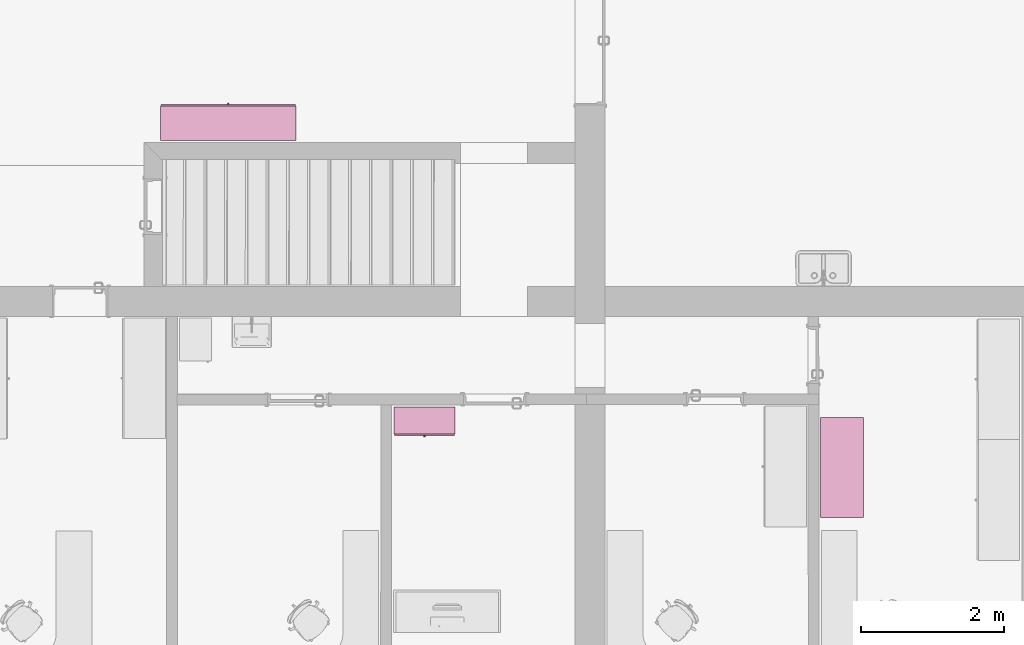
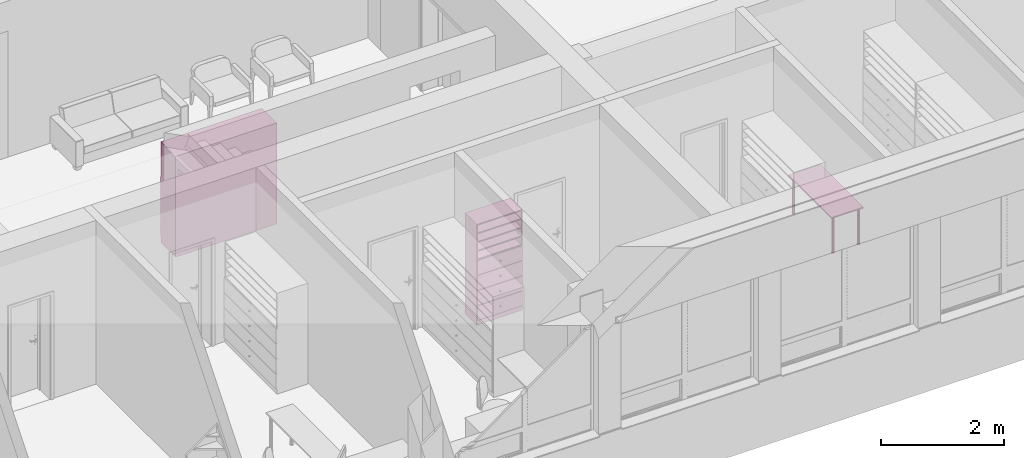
# One storey, part 174 of 194: 3 furnishings.
"""IFC2X3 building model written with IfcOpenShell, lengths in millimetres."""

from ifc_helpers import new_model, entity, si_unit, converted_unit, derived_unit, money_unit, direction, frame, origin_with_axes, place, context, subcontext, project, spatial, faceted_brep, type_object, element, save


model = new_model("IFC2X3")

# Units and contexts
model_context = context("Model", 3, precision=1e-05, world=origin_with_axes(), true_north=direction((0.0, 1.0)))
body_context = subcontext(model_context, "Body", "Model", "MODEL_VIEW")
ifc_project = project(units=[si_unit("LENGTHUNIT", "METRE", prefix="MILLI"), si_unit("AREAUNIT", "SQUARE_METRE"), si_unit("VOLUMEUNIT", "CUBIC_METRE"), converted_unit("PLANEANGLEUNIT", "DEGREE", entity("IfcPlaneAngleMeasure", 0.0174532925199), si_unit("PLANEANGLEUNIT", "RADIAN"), dimensions=[0, 0, 0, 0, 0, 0, 0]), si_unit("SOLIDANGLEUNIT", "STERADIAN"), money_unit("EUR"), converted_unit("TIMEUNIT", "Year", entity("IfcTimeMeasure", 31556926.0), si_unit("TIMEUNIT", "SECOND"), dimensions=[0, 0, 1, 0, 0, 0, 0]), si_unit("MASSUNIT", "GRAM", prefix="KILO"), si_unit("THERMODYNAMICTEMPERATUREUNIT", "DEGREE_CELSIUS"), si_unit("LUMINOUSINTENSITYUNIT", "LUMEN"), si_unit("ENERGYUNIT", "JOULE", prefix="MEGA"), derived_unit("THERMALCONDUCTANCEUNIT", [(si_unit("POWERUNIT", "WATT"), 1), (si_unit("LENGTHUNIT", "METRE"), -1), (si_unit("THERMODYNAMICTEMPERATUREUNIT", "KELVIN"), -1)]), derived_unit("SPECIFICHEATCAPACITYUNIT", [(si_unit("ENERGYUNIT", "JOULE"), 1), (si_unit("MASSUNIT", "GRAM", prefix="KILO"), -1), (si_unit("THERMODYNAMICTEMPERATUREUNIT", "KELVIN"), -1)]), derived_unit("MASSDENSITYUNIT", [(si_unit("MASSUNIT", "GRAM", prefix="KILO"), 1), (si_unit("VOLUMEUNIT", "CUBIC_METRE"), -1)])], contexts=[model_context])

# Site, building, storey
site_placement = place(None, origin_with_axes())
site = spatial("IfcSite", under=ifc_project, at=site_placement, Name="Site", CompositionType="ELEMENT")
building_placement = place(site_placement, origin_with_axes())
building = spatial("IfcBuilding", under=site, at=building_placement, Name="Building", CompositionType="ELEMENT")
storey_placement = place(building_placement, frame((0.0, 0.0, 3000.0), z_axis=(0.0, 0.0, 1.0), x_axis=(1.0, 0.0, 0.0)))
storey = spatial("IfcBuildingStorey", under=building, at=storey_placement, Name="2 KORRUS", CompositionType="ELEMENT", Elevation=3000.0)

# Furnishings
furnishing_element_type_1 = type_object("IfcFurnishingElementType", Name="Model Element 133")
furnishing_1_placement = place(storey_placement, frame((85194.669742, 38913.6964991, 0.0), z_axis=(0.0, 0.0, 1.0), x_axis=(1.0, 0.0, 0.0)))
element("IfcFurnishingElement", 1, at=furnishing_1_placement, inside=storey, type_object=furnishing_element_type_1, Name="FU - 001", context=body_context, shape_type="Brep", body=[
    faceted_brep([(855.807816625, 19.0, 0.0), (0.0, 19.0, 0.0), (0.0, 400.0, 0.0), (855.807816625, 400.0, 0.0), (855.807816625, 19.0, 100.0), (0.0, 19.0, 100.0), (0.0, 400.0, 100.0), (855.807816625, 400.0, 100.0)], [[[0, 1, 2, 3]], [[1, 0, 4, 5]], [[2, 1, 5, 6]], [[3, 2, 6, 7]], [[0, 3, 7, 4]], [[5, 4, 7, 6]]]),
    faceted_brep([(19.0, 400.0, 119.0), (19.0, 381.0, 119.0), (19.0, 381.0, 1981.0), (19.0, 400.0, 1981.0), (836.807816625, 400.0, 119.0), (836.807816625, 381.0, 119.0), (836.807816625, 381.0, 1981.0), (836.807816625, 400.0, 1981.0)], [[[0, 1, 2, 3]], [[0, 4, 5, 1]], [[1, 5, 6, 2]], [[3, 2, 6, 7]], [[4, 0, 3, 7]], [[5, 4, 7, 6]]]),
    faceted_brep([(855.807816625, 19.0, 100.0), (836.807816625, 19.0, 100.0), (836.807816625, 400.0, 100.0), (855.807816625, 400.0, 100.0), (855.807816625, 19.0, 2000.0), (836.807816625, 19.0, 2000.0), (836.807816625, 400.0, 2000.0), (855.807816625, 400.0, 2000.0)], [[[0, 1, 2, 3]], [[1, 0, 4, 5]], [[2, 1, 5, 6]], [[3, 2, 6, 7]], [[0, 3, 7, 4]], [[5, 4, 7, 6]]]),
    faceted_brep([(19.0, 19.0, 100.0), (0.0, 19.0, 100.0), (0.0, 400.0, 100.0), (19.0, 400.0, 100.0), (19.0, 19.0, 2000.0), (0.0, 19.0, 2000.0), (0.0, 400.0, 2000.0), (19.0, 400.0, 2000.0)], [[[0, 1, 2, 3]], [[1, 0, 4, 5]], [[2, 1, 5, 6]], [[3, 2, 6, 7]], [[0, 3, 7, 4]], [[5, 4, 7, 6]]]),
    faceted_brep([(836.807816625, 19.0, 100.0), (19.0, 19.0, 100.0), (19.0, 400.0, 100.0), (836.807816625, 400.0, 100.0), (836.807816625, 19.0, 119.0), (19.0, 19.0, 119.0), (19.0, 400.0, 119.0), (836.807816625, 400.0, 119.0)], [[[0, 1, 2, 3]], [[1, 0, 4, 5]], [[2, 1, 5, 6]], [[3, 2, 6, 7]], [[0, 3, 7, 4]], [[5, 4, 7, 6]]]),
    faceted_brep([(836.807816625, 19.0, 1981.0), (19.0, 19.0, 1981.0), (19.0, 400.0, 1981.0), (836.807816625, 400.0, 1981.0), (836.807816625, 19.0, 2000.0), (19.0, 19.0, 2000.0), (19.0, 400.0, 2000.0), (836.807816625, 400.0, 2000.0)], [[[0, 1, 2, 3]], [[1, 0, 4, 5]], [[2, 1, 5, 6]], [[3, 2, 6, 7]], [[0, 3, 7, 4]], [[5, 4, 7, 6]]]),
    faceted_brep([(5.0, 19.0, 105.0), (850.807816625, 19.0, 105.0), (850.807816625, 0.0, 105.0), (5.0, 0.0, 105.0), (5.0, 19.0, 395.0), (850.807816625, 19.0, 395.0), (850.807816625, 0.0, 395.0), (5.0, 0.0, 395.0)], [[[0, 1, 2, 3]], [[0, 4, 5, 1]], [[1, 5, 6, 2]], [[3, 2, 6, 7]], [[4, 0, 3, 7]], [[5, 4, 7, 6]]]),
    faceted_brep([(438.296213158, 0.0, 244.0), (433.903908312, 0.0, 239.607695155), (427.903908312, 0.0, 238.0), (421.903908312, 0.0, 239.607695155), (417.511603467, 0.0, 244.0), (415.903908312, 0.0, 250.0), (417.511603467, 0.0, 256.0), (421.903908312, 0.0, 260.392304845), (427.903908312, 0.0, 262.0), (433.903908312, 0.0, 260.392304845), (438.296213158, 0.0, 256.0), (439.903908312, 0.0, 250.0), (438.296213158, -25.0, 244.0), (433.903908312, -25.0, 239.607695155), (427.903908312, -25.0, 238.0), (421.903908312, -25.0, 239.607695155), (417.511603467, -25.0, 244.0), (415.903908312, -25.0, 250.0), (417.511603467, -25.0, 256.0), (421.903908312, -25.0, 260.392304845), (427.903908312, -25.0, 262.0), (433.903908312, -25.0, 260.392304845), (438.296213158, -25.0, 256.0), (439.903908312, -25.0, 250.0)], [[[0, 1, 2, 3, 4, 5, 6, 7, 8, 9, 10, 11]], [[1, 0, 12, 13]], [[2, 1, 13, 14]], [[3, 2, 14, 15]], [[4, 3, 15, 16]], [[5, 4, 16, 17]], [[6, 5, 17, 18]], [[7, 6, 18, 19]], [[8, 7, 19, 20]], [[9, 8, 20, 21]], [[10, 9, 21, 22]], [[11, 10, 22, 23]], [[0, 11, 23, 12]], [[12, 23, 22, 21, 20, 19, 18, 17, 16, 15, 14, 13]]]),
    faceted_brep([(5.0, 19.0, 405.0), (850.807816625, 19.0, 405.0), (850.807816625, 0.0, 405.0), (5.0, 0.0, 405.0), (5.0, 19.0, 695.0), (850.807816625, 19.0, 695.0), (850.807816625, 0.0, 695.0), (5.0, 0.0, 695.0)], [[[0, 1, 2, 3]], [[0, 4, 5, 1]], [[1, 5, 6, 2]], [[3, 2, 6, 7]], [[4, 0, 3, 7]], [[5, 4, 7, 6]]]),
    faceted_brep([(438.296213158, 0.0, 544.0), (433.903908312, 0.0, 539.607695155), (427.903908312, 0.0, 538.0), (421.903908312, 0.0, 539.607695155), (417.511603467, 0.0, 544.0), (415.903908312, 0.0, 550.0), (417.511603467, 0.0, 556.0), (421.903908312, 0.0, 560.392304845), (427.903908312, 0.0, 562.0), (433.903908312, 0.0, 560.392304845), (438.296213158, 0.0, 556.0), (439.903908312, 0.0, 550.0), (438.296213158, -25.0, 544.0), (433.903908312, -25.0, 539.607695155), (427.903908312, -25.0, 538.0), (421.903908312, -25.0, 539.607695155), (417.511603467, -25.0, 544.0), (415.903908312, -25.0, 550.0), (417.511603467, -25.0, 556.0), (421.903908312, -25.0, 560.392304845), (427.903908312, -25.0, 562.0), (433.903908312, -25.0, 560.392304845), (438.296213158, -25.0, 556.0), (439.903908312, -25.0, 550.0)], [[[0, 1, 2, 3, 4, 5, 6, 7, 8, 9, 10, 11]], [[1, 0, 12, 13]], [[2, 1, 13, 14]], [[3, 2, 14, 15]], [[4, 3, 15, 16]], [[5, 4, 16, 17]], [[6, 5, 17, 18]], [[7, 6, 18, 19]], [[8, 7, 19, 20]], [[9, 8, 20, 21]], [[10, 9, 21, 22]], [[11, 10, 22, 23]], [[0, 11, 23, 12]], [[12, 23, 22, 21, 20, 19, 18, 17, 16, 15, 14, 13]]]),
    faceted_brep([(5.0, 19.0, 705.0), (850.807816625, 19.0, 705.0), (850.807816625, 0.0, 705.0), (5.0, 0.0, 705.0), (5.0, 19.0, 995.0), (850.807816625, 19.0, 995.0), (850.807816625, 0.0, 995.0), (5.0, 0.0, 995.0)], [[[0, 1, 2, 3]], [[0, 4, 5, 1]], [[1, 5, 6, 2]], [[3, 2, 6, 7]], [[4, 0, 3, 7]], [[5, 4, 7, 6]]]),
    faceted_brep([(438.296213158, 0.0, 844.0), (433.903908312, 0.0, 839.607695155), (427.903908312, 0.0, 838.0), (421.903908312, 0.0, 839.607695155), (417.511603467, 0.0, 844.0), (415.903908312, 0.0, 850.0), (417.511603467, 0.0, 856.0), (421.903908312, 0.0, 860.392304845), (427.903908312, 0.0, 862.0), (433.903908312, 0.0, 860.392304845), (438.296213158, 0.0, 856.0), (439.903908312, 0.0, 850.0), (438.296213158, -25.0, 844.0), (433.903908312, -25.0, 839.607695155), (427.903908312, -25.0, 838.0), (421.903908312, -25.0, 839.607695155), (417.511603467, -25.0, 844.0), (415.903908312, -25.0, 850.0), (417.511603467, -25.0, 856.0), (421.903908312, -25.0, 860.392304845), (427.903908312, -25.0, 862.0), (433.903908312, -25.0, 860.392304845), (438.296213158, -25.0, 856.0), (439.903908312, -25.0, 850.0)], [[[0, 1, 2, 3, 4, 5, 6, 7, 8, 9, 10, 11]], [[1, 0, 12, 13]], [[2, 1, 13, 14]], [[3, 2, 14, 15]], [[4, 3, 15, 16]], [[5, 4, 16, 17]], [[6, 5, 17, 18]], [[7, 6, 18, 19]], [[8, 7, 19, 20]], [[9, 8, 20, 21]], [[10, 9, 21, 22]], [[11, 10, 22, 23]], [[0, 11, 23, 12]], [[12, 23, 22, 21, 20, 19, 18, 17, 16, 15, 14, 13]]]),
    faceted_brep([(5.0, 19.0, 1005.0), (850.807816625, 19.0, 1005.0), (850.807816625, 0.0, 1005.0), (5.0, 0.0, 1005.0), (5.0, 19.0, 1295.0), (850.807816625, 19.0, 1295.0), (850.807816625, 0.0, 1295.0), (5.0, 0.0, 1295.0)], [[[0, 1, 2, 3]], [[0, 4, 5, 1]], [[1, 5, 6, 2]], [[3, 2, 6, 7]], [[4, 0, 3, 7]], [[5, 4, 7, 6]]]),
    faceted_brep([(438.296213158, 0.0, 1144.0), (433.903908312, 0.0, 1139.60769515), (427.903908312, 0.0, 1138.0), (421.903908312, 0.0, 1139.60769515), (417.511603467, 0.0, 1144.0), (415.903908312, 0.0, 1150.0), (417.511603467, 0.0, 1156.0), (421.903908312, 0.0, 1160.39230485), (427.903908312, 0.0, 1162.0), (433.903908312, 0.0, 1160.39230485), (438.296213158, 0.0, 1156.0), (439.903908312, 0.0, 1150.0), (438.296213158, -25.0, 1144.0), (433.903908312, -25.0, 1139.60769515), (427.903908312, -25.0, 1138.0), (421.903908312, -25.0, 1139.60769515), (417.511603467, -25.0, 1144.0), (415.903908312, -25.0, 1150.0), (417.511603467, -25.0, 1156.0), (421.903908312, -25.0, 1160.39230485), (427.903908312, -25.0, 1162.0), (433.903908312, -25.0, 1160.39230485), (438.296213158, -25.0, 1156.0), (439.903908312, -25.0, 1150.0)], [[[0, 1, 2, 3, 4, 5, 6, 7, 8, 9, 10, 11]], [[1, 0, 12, 13]], [[2, 1, 13, 14]], [[3, 2, 14, 15]], [[4, 3, 15, 16]], [[5, 4, 16, 17]], [[6, 5, 17, 18]], [[7, 6, 18, 19]], [[8, 7, 19, 20]], [[9, 8, 20, 21]], [[10, 9, 21, 22]], [[11, 10, 22, 23]], [[0, 11, 23, 12]], [[12, 23, 22, 21, 20, 19, 18, 17, 16, 15, 14, 13]]]),
    faceted_brep([(19.0, 19.0, 390.5), (836.807816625, 19.0, 390.5), (836.807816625, 19.0, 409.5), (19.0, 19.0, 409.5), (19.0, 381.0, 390.5), (836.807816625, 381.0, 390.5), (836.807816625, 381.0, 409.5), (19.0, 381.0, 409.5)], [[[0, 1, 2, 3]], [[0, 4, 5, 1]], [[1, 5, 6, 2]], [[3, 2, 6, 7]], [[4, 0, 3, 7]], [[5, 4, 7, 6]]]),
    faceted_brep([(19.0, 19.0, 690.5), (836.807816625, 19.0, 690.5), (836.807816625, 19.0, 709.5), (19.0, 19.0, 709.5), (19.0, 381.0, 690.5), (836.807816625, 381.0, 690.5), (836.807816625, 381.0, 709.5), (19.0, 381.0, 709.5)], [[[0, 1, 2, 3]], [[0, 4, 5, 1]], [[1, 5, 6, 2]], [[3, 2, 6, 7]], [[4, 0, 3, 7]], [[5, 4, 7, 6]]]),
    faceted_brep([(19.0, 19.0, 990.5), (836.807816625, 19.0, 990.5), (836.807816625, 19.0, 1009.5), (19.0, 19.0, 1009.5), (19.0, 381.0, 990.5), (836.807816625, 381.0, 990.5), (836.807816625, 381.0, 1009.5), (19.0, 381.0, 1009.5)], [[[0, 1, 2, 3]], [[0, 4, 5, 1]], [[1, 5, 6, 2]], [[3, 2, 6, 7]], [[4, 0, 3, 7]], [[5, 4, 7, 6]]]),
    faceted_brep([(19.0, 19.0, 1290.5), (836.807816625, 19.0, 1290.5), (836.807816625, 19.0, 1309.5), (19.0, 19.0, 1309.5), (19.0, 381.0, 1290.5), (836.807816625, 381.0, 1290.5), (836.807816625, 381.0, 1309.5), (19.0, 381.0, 1309.5)], [[[0, 1, 2, 3]], [[0, 4, 5, 1]], [[1, 5, 6, 2]], [[3, 2, 6, 7]], [[4, 0, 3, 7]], [[5, 4, 7, 6]]]),
    faceted_brep([(836.807816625, 19.0, 1463.125), (19.0, 19.0, 1463.125), (19.0, 381.0, 1463.125), (836.807816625, 381.0, 1463.125), (836.807816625, 19.0, 1482.125), (19.0, 19.0, 1482.125), (19.0, 381.0, 1482.125), (836.807816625, 381.0, 1482.125)], [[[0, 1, 2, 3]], [[1, 0, 4, 5]], [[2, 1, 5, 6]], [[3, 2, 6, 7]], [[0, 3, 7, 4]], [[5, 4, 7, 6]]]),
    faceted_brep([(836.807816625, 19.0, 1635.75), (19.0, 19.0, 1635.75), (19.0, 381.0, 1635.75), (836.807816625, 381.0, 1635.75), (836.807816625, 19.0, 1654.75), (19.0, 19.0, 1654.75), (19.0, 381.0, 1654.75), (836.807816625, 381.0, 1654.75)], [[[0, 1, 2, 3]], [[1, 0, 4, 5]], [[2, 1, 5, 6]], [[3, 2, 6, 7]], [[0, 3, 7, 4]], [[5, 4, 7, 6]]]),
    faceted_brep([(836.807816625, 19.0, 1808.375), (19.0, 19.0, 1808.375), (19.0, 381.0, 1808.375), (836.807816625, 381.0, 1808.375), (836.807816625, 19.0, 1827.375), (19.0, 19.0, 1827.375), (19.0, 381.0, 1827.375), (836.807816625, 381.0, 1827.375)], [[[0, 1, 2, 3]], [[1, 0, 4, 5]], [[2, 1, 5, 6]], [[3, 2, 6, 7]], [[0, 3, 7, 4]], [[5, 4, 7, 6]]]),
])
furnishing_element_type_2 = type_object("IfcFurnishingElementType", Name="Model Element 131")
furnishing_2_placement = place(storey_placement, frame((91779.7603064, 37762.8292035, 0.0), z_axis=(0.0, 0.0, 1.0), x_axis=(0.0, 1.0, 0.0)))
element("IfcFurnishingElement", 2, at=furnishing_2_placement, inside=storey, type_object=furnishing_element_type_2, Name="FU - 007", context=body_context, shape_type="Brep", body=[
    faceted_brep([(0.0, 0.0, 725.0), (1400.0, 0.0, 725.0), (1400.0, 0.0, 750.0), (0.0, 0.0, 750.0), (0.0, 598.705627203, 725.0), (1400.0, 598.705627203, 725.0), (1400.0, 598.705627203, 750.0), (0.0, 598.705627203, 750.0)], [[[0, 1, 2, 3]], [[0, 4, 5, 1]], [[1, 5, 6, 2]], [[3, 2, 6, 7]], [[4, 0, 3, 7]], [[5, 4, 7, 6]]]),
    faceted_brep([(77.6776695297, 77.6776695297, 10.0), (85.0, 60.0, 10.0), (77.6776695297, 42.3223304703, 10.0), (60.0, 35.0, 10.0), (42.3223304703, 42.3223304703, 10.0), (35.0, 60.0, 10.0), (42.3223304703, 77.6776695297, 10.0), (60.0, 85.0, 10.0), (77.6776695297, 77.6776695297, 725.0), (85.0, 60.0, 725.0), (77.6776695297, 42.3223304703, 725.0), (60.0, 35.0, 725.0), (42.3223304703, 42.3223304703, 725.0), (35.0, 60.0, 725.0), (42.3223304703, 77.6776695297, 725.0), (60.0, 85.0, 725.0)], [[[0, 1, 2, 3, 4, 5, 6, 7]], [[1, 0, 8, 9]], [[2, 1, 9, 10]], [[3, 2, 10, 11]], [[4, 3, 11, 12]], [[5, 4, 12, 13]], [[6, 5, 13, 14]], [[7, 6, 14, 15]], [[0, 7, 15, 8]], [[8, 15, 14, 13, 12, 11, 10, 9]]]),
    faceted_brep([(81.2132034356, 81.2132034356, 0.0), (90.0, 60.0, 0.0), (81.2132034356, 38.7867965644, 0.0), (60.0, 30.0, 0.0), (38.7867965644, 38.7867965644, 0.0), (30.0, 60.0, 0.0), (38.7867965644, 81.2132034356, 0.0), (60.0, 90.0, 0.0), (81.2132034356, 81.2132034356, 10.0), (90.0, 60.0, 10.0), (81.2132034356, 38.7867965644, 10.0), (60.0, 30.0, 10.0), (38.7867965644, 38.7867965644, 10.0), (30.0, 60.0, 10.0), (38.7867965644, 81.2132034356, 10.0), (60.0, 90.0, 10.0)], [[[0, 1, 2, 3, 4, 5, 6, 7]], [[1, 0, 8, 9]], [[2, 1, 9, 10]], [[3, 2, 10, 11]], [[4, 3, 11, 12]], [[5, 4, 12, 13]], [[6, 5, 13, 14]], [[7, 6, 14, 15]], [[0, 7, 15, 8]], [[8, 15, 14, 13, 12, 11, 10, 9]]]),
    faceted_brep([(77.6776695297, 556.383296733, 10.0), (85.0, 538.705627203, 10.0), (77.6776695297, 521.027957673, 10.0), (60.0, 513.705627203, 10.0), (42.3223304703, 521.027957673, 10.0), (35.0, 538.705627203, 10.0), (42.3223304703, 556.383296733, 10.0), (60.0, 563.705627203, 10.0), (77.6776695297, 556.383296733, 725.0), (85.0, 538.705627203, 725.0), (77.6776695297, 521.027957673, 725.0), (60.0, 513.705627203, 725.0), (42.3223304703, 521.027957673, 725.0), (35.0, 538.705627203, 725.0), (42.3223304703, 556.383296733, 725.0), (60.0, 563.705627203, 725.0)], [[[0, 1, 2, 3, 4, 5, 6, 7]], [[1, 0, 8, 9]], [[2, 1, 9, 10]], [[3, 2, 10, 11]], [[4, 3, 11, 12]], [[5, 4, 12, 13]], [[6, 5, 13, 14]], [[7, 6, 14, 15]], [[0, 7, 15, 8]], [[8, 15, 14, 13, 12, 11, 10, 9]]]),
    faceted_brep([(81.2132034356, 559.918830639, 0.0), (90.0, 538.705627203, 0.0), (81.2132034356, 517.492423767, 0.0), (60.0, 508.705627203, 0.0), (38.7867965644, 517.492423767, 0.0), (30.0, 538.705627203, 0.0), (38.7867965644, 559.918830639, 0.0), (60.0, 568.705627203, 0.0), (81.2132034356, 559.918830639, 10.0), (90.0, 538.705627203, 10.0), (81.2132034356, 517.492423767, 10.0), (60.0, 508.705627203, 10.0), (38.7867965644, 517.492423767, 10.0), (30.0, 538.705627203, 10.0), (38.7867965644, 559.918830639, 10.0), (60.0, 568.705627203, 10.0)], [[[0, 1, 2, 3, 4, 5, 6, 7]], [[1, 0, 8, 9]], [[2, 1, 9, 10]], [[3, 2, 10, 11]], [[4, 3, 11, 12]], [[5, 4, 12, 13]], [[6, 5, 13, 14]], [[7, 6, 14, 15]], [[0, 7, 15, 8]], [[8, 15, 14, 13, 12, 11, 10, 9]]]),
    faceted_brep([(1357.67766953, 77.6776695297, 10.0), (1365.0, 60.0, 10.0), (1357.67766953, 42.3223304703, 10.0), (1340.0, 35.0, 10.0), (1322.32233047, 42.3223304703, 10.0), (1315.0, 60.0, 10.0), (1322.32233047, 77.6776695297, 10.0), (1340.0, 85.0, 10.0), (1357.67766953, 77.6776695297, 725.0), (1365.0, 60.0, 725.0), (1357.67766953, 42.3223304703, 725.0), (1340.0, 35.0, 725.0), (1322.32233047, 42.3223304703, 725.0), (1315.0, 60.0, 725.0), (1322.32233047, 77.6776695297, 725.0), (1340.0, 85.0, 725.0)], [[[0, 1, 2, 3, 4, 5, 6, 7]], [[1, 0, 8, 9]], [[2, 1, 9, 10]], [[3, 2, 10, 11]], [[4, 3, 11, 12]], [[5, 4, 12, 13]], [[6, 5, 13, 14]], [[7, 6, 14, 15]], [[0, 7, 15, 8]], [[8, 15, 14, 13, 12, 11, 10, 9]]]),
    faceted_brep([(1361.21320344, 81.2132034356, 0.0), (1370.0, 60.0, 0.0), (1361.21320344, 38.7867965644, 0.0), (1340.0, 30.0, 0.0), (1318.78679656, 38.7867965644, 0.0), (1310.0, 60.0, 0.0), (1318.78679656, 81.2132034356, 0.0), (1340.0, 90.0, 0.0), (1361.21320344, 81.2132034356, 10.0), (1370.0, 60.0, 10.0), (1361.21320344, 38.7867965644, 10.0), (1340.0, 30.0, 10.0), (1318.78679656, 38.7867965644, 10.0), (1310.0, 60.0, 10.0), (1318.78679656, 81.2132034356, 10.0), (1340.0, 90.0, 10.0)], [[[0, 1, 2, 3, 4, 5, 6, 7]], [[1, 0, 8, 9]], [[2, 1, 9, 10]], [[3, 2, 10, 11]], [[4, 3, 11, 12]], [[5, 4, 12, 13]], [[6, 5, 13, 14]], [[7, 6, 14, 15]], [[0, 7, 15, 8]], [[8, 15, 14, 13, 12, 11, 10, 9]]]),
    faceted_brep([(1357.67766953, 556.383296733, 10.0), (1365.0, 538.705627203, 10.0), (1357.67766953, 521.027957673, 10.0), (1340.0, 513.705627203, 10.0), (1322.32233047, 521.027957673, 10.0), (1315.0, 538.705627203, 10.0), (1322.32233047, 556.383296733, 10.0), (1340.0, 563.705627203, 10.0), (1357.67766953, 556.383296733, 725.0), (1365.0, 538.705627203, 725.0), (1357.67766953, 521.027957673, 725.0), (1340.0, 513.705627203, 725.0), (1322.32233047, 521.027957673, 725.0), (1315.0, 538.705627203, 725.0), (1322.32233047, 556.383296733, 725.0), (1340.0, 563.705627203, 725.0)], [[[0, 1, 2, 3, 4, 5, 6, 7]], [[1, 0, 8, 9]], [[2, 1, 9, 10]], [[3, 2, 10, 11]], [[4, 3, 11, 12]], [[5, 4, 12, 13]], [[6, 5, 13, 14]], [[7, 6, 14, 15]], [[0, 7, 15, 8]], [[8, 15, 14, 13, 12, 11, 10, 9]]]),
    faceted_brep([(1361.21320344, 559.918830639, 0.0), (1370.0, 538.705627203, 0.0), (1361.21320344, 517.492423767, 0.0), (1340.0, 508.705627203, 0.0), (1318.78679656, 517.492423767, 0.0), (1310.0, 538.705627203, 0.0), (1318.78679656, 559.918830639, 0.0), (1340.0, 568.705627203, 0.0), (1361.21320344, 559.918830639, 10.0), (1370.0, 538.705627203, 10.0), (1361.21320344, 517.492423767, 10.0), (1340.0, 508.705627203, 10.0), (1318.78679656, 517.492423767, 10.0), (1310.0, 538.705627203, 10.0), (1318.78679656, 559.918830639, 10.0), (1340.0, 568.705627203, 10.0)], [[[0, 1, 2, 3, 4, 5, 6, 7]], [[1, 0, 8, 9]], [[2, 1, 9, 10]], [[3, 2, 10, 11]], [[4, 3, 11, 12]], [[5, 4, 12, 13]], [[6, 5, 13, 14]], [[7, 6, 14, 15]], [[0, 7, 15, 8]], [[8, 15, 14, 13, 12, 11, 10, 9]]]),
])
furnishing_element_type_3 = type_object("IfcFurnishingElementType", Name="Model Element 70")
furnishing_3_placement = place(storey_placement, frame((83821.2652687, 43550.7942333, 0.0), z_axis=(0.0, 0.0, 1.0), x_axis=(-0.999999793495, 0.000642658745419, 0.0)))
element("IfcFurnishingElement", 3, at=furnishing_3_placement, inside=storey, type_object=furnishing_element_type_3, Name="FU - 001", context=body_context, shape_type="Brep", body=[
    faceted_brep([(1900.0, 19.0, 0.0), (0.0, 19.0, 0.0), (0.0, 501.143297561, 0.0), (1900.0, 501.143297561, 0.0), (1900.0, 19.0, 100.0), (0.0, 19.0, 100.0), (0.0, 501.143297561, 100.0), (1900.0, 501.143297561, 100.0)], [[[0, 1, 2, 3]], [[1, 0, 4, 5]], [[2, 1, 5, 6]], [[3, 2, 6, 7]], [[0, 3, 7, 4]], [[5, 4, 7, 6]]]),
    faceted_brep([(19.0, 501.143297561, 119.0), (19.0, 482.143297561, 119.0), (19.0, 482.143297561, 1981.0), (19.0, 501.143297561, 1981.0), (1881.0, 501.143297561, 119.0), (1881.0, 482.143297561, 119.0), (1881.0, 482.143297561, 1981.0), (1881.0, 501.143297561, 1981.0)], [[[0, 1, 2, 3]], [[0, 4, 5, 1]], [[1, 5, 6, 2]], [[3, 2, 6, 7]], [[4, 0, 3, 7]], [[5, 4, 7, 6]]]),
    faceted_brep([(1900.0, 19.0, 100.0), (1881.0, 19.0, 100.0), (1881.0, 501.143297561, 100.0), (1900.0, 501.143297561, 100.0), (1900.0, 19.0, 2000.0), (1881.0, 19.0, 2000.0), (1881.0, 501.143297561, 2000.0), (1900.0, 501.143297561, 2000.0)], [[[0, 1, 2, 3]], [[1, 0, 4, 5]], [[2, 1, 5, 6]], [[3, 2, 6, 7]], [[0, 3, 7, 4]], [[5, 4, 7, 6]]]),
    faceted_brep([(19.0, 19.0, 100.0), (0.0, 19.0, 100.0), (0.0, 501.143297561, 100.0), (19.0, 501.143297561, 100.0), (19.0, 19.0, 2000.0), (0.0, 19.0, 2000.0), (0.0, 501.143297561, 2000.0), (19.0, 501.143297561, 2000.0)], [[[0, 1, 2, 3]], [[1, 0, 4, 5]], [[2, 1, 5, 6]], [[3, 2, 6, 7]], [[0, 3, 7, 4]], [[5, 4, 7, 6]]]),
    faceted_brep([(1881.0, 19.0, 100.0), (19.0, 19.0, 100.0), (19.0, 501.143297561, 100.0), (1881.0, 501.143297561, 100.0), (1881.0, 19.0, 119.0), (19.0, 19.0, 119.0), (19.0, 501.143297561, 119.0), (1881.0, 501.143297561, 119.0)], [[[0, 1, 2, 3]], [[1, 0, 4, 5]], [[2, 1, 5, 6]], [[3, 2, 6, 7]], [[0, 3, 7, 4]], [[5, 4, 7, 6]]]),
    faceted_brep([(1881.0, 19.0, 1981.0), (19.0, 19.0, 1981.0), (19.0, 501.143297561, 1981.0), (1881.0, 501.143297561, 1981.0), (1881.0, 19.0, 2000.0), (19.0, 19.0, 2000.0), (19.0, 501.143297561, 2000.0), (1881.0, 501.143297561, 2000.0)], [[[0, 1, 2, 3]], [[1, 0, 4, 5]], [[2, 1, 5, 6]], [[3, 2, 6, 7]], [[0, 3, 7, 4]], [[5, 4, 7, 6]]]),
    faceted_brep([(5.0, 19.0, 105.0), (1895.0, 19.0, 105.0), (1895.0, 0.0, 105.0), (5.0, 0.0, 105.0), (5.0, 19.0, 395.0), (1895.0, 19.0, 395.0), (1895.0, 0.0, 395.0), (5.0, 0.0, 395.0)], [[[0, 1, 2, 3]], [[0, 4, 5, 1]], [[1, 5, 6, 2]], [[3, 2, 6, 7]], [[4, 0, 3, 7]], [[5, 4, 7, 6]]]),
    faceted_brep([(960.392304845, 0.0, 244.0), (956.0, 0.0, 239.607695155), (950.0, 0.0, 238.0), (944.0, 0.0, 239.607695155), (939.607695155, 0.0, 244.0), (938.0, 0.0, 250.0), (939.607695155, 0.0, 256.0), (944.0, 0.0, 260.392304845), (950.0, 0.0, 262.0), (956.0, 0.0, 260.392304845), (960.392304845, 0.0, 256.0), (962.0, 0.0, 250.0), (960.392304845, -25.0, 244.0), (956.0, -25.0, 239.607695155), (950.0, -25.0, 238.0), (944.0, -25.0, 239.607695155), (939.607695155, -25.0, 244.0), (938.0, -25.0, 250.0), (939.607695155, -25.0, 256.0), (944.0, -25.0, 260.392304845), (950.0, -25.0, 262.0), (956.0, -25.0, 260.392304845), (960.392304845, -25.0, 256.0), (962.0, -25.0, 250.0)], [[[0, 1, 2, 3, 4, 5, 6, 7, 8, 9, 10, 11]], [[1, 0, 12, 13]], [[2, 1, 13, 14]], [[3, 2, 14, 15]], [[4, 3, 15, 16]], [[5, 4, 16, 17]], [[6, 5, 17, 18]], [[7, 6, 18, 19]], [[8, 7, 19, 20]], [[9, 8, 20, 21]], [[10, 9, 21, 22]], [[11, 10, 22, 23]], [[0, 11, 23, 12]], [[12, 23, 22, 21, 20, 19, 18, 17, 16, 15, 14, 13]]]),
    faceted_brep([(5.0, 19.0, 405.0), (1895.0, 19.0, 405.0), (1895.0, 0.0, 405.0), (5.0, 0.0, 405.0), (5.0, 19.0, 695.0), (1895.0, 19.0, 695.0), (1895.0, 0.0, 695.0), (5.0, 0.0, 695.0)], [[[0, 1, 2, 3]], [[0, 4, 5, 1]], [[1, 5, 6, 2]], [[3, 2, 6, 7]], [[4, 0, 3, 7]], [[5, 4, 7, 6]]]),
    faceted_brep([(960.392304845, 0.0, 544.0), (956.0, 0.0, 539.607695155), (950.0, 0.0, 538.0), (944.0, 0.0, 539.607695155), (939.607695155, 0.0, 544.0), (938.0, 0.0, 550.0), (939.607695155, 0.0, 556.0), (944.0, 0.0, 560.392304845), (950.0, 0.0, 562.0), (956.0, 0.0, 560.392304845), (960.392304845, 0.0, 556.0), (962.0, 0.0, 550.0), (960.392304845, -25.0, 544.0), (956.0, -25.0, 539.607695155), (950.0, -25.0, 538.0), (944.0, -25.0, 539.607695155), (939.607695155, -25.0, 544.0), (938.0, -25.0, 550.0), (939.607695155, -25.0, 556.0), (944.0, -25.0, 560.392304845), (950.0, -25.0, 562.0), (956.0, -25.0, 560.392304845), (960.392304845, -25.0, 556.0), (962.0, -25.0, 550.0)], [[[0, 1, 2, 3, 4, 5, 6, 7, 8, 9, 10, 11]], [[1, 0, 12, 13]], [[2, 1, 13, 14]], [[3, 2, 14, 15]], [[4, 3, 15, 16]], [[5, 4, 16, 17]], [[6, 5, 17, 18]], [[7, 6, 18, 19]], [[8, 7, 19, 20]], [[9, 8, 20, 21]], [[10, 9, 21, 22]], [[11, 10, 22, 23]], [[0, 11, 23, 12]], [[12, 23, 22, 21, 20, 19, 18, 17, 16, 15, 14, 13]]]),
    faceted_brep([(5.0, 19.0, 705.0), (1895.0, 19.0, 705.0), (1895.0, 0.0, 705.0), (5.0, 0.0, 705.0), (5.0, 19.0, 995.0), (1895.0, 19.0, 995.0), (1895.0, 0.0, 995.0), (5.0, 0.0, 995.0)], [[[0, 1, 2, 3]], [[0, 4, 5, 1]], [[1, 5, 6, 2]], [[3, 2, 6, 7]], [[4, 0, 3, 7]], [[5, 4, 7, 6]]]),
    faceted_brep([(960.392304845, 0.0, 844.0), (956.0, 0.0, 839.607695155), (950.0, 0.0, 838.0), (944.0, 0.0, 839.607695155), (939.607695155, 0.0, 844.0), (938.0, 0.0, 850.0), (939.607695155, 0.0, 856.0), (944.0, 0.0, 860.392304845), (950.0, 0.0, 862.0), (956.0, 0.0, 860.392304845), (960.392304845, 0.0, 856.0), (962.0, 0.0, 850.0), (960.392304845, -25.0, 844.0), (956.0, -25.0, 839.607695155), (950.0, -25.0, 838.0), (944.0, -25.0, 839.607695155), (939.607695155, -25.0, 844.0), (938.0, -25.0, 850.0), (939.607695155, -25.0, 856.0), (944.0, -25.0, 860.392304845), (950.0, -25.0, 862.0), (956.0, -25.0, 860.392304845), (960.392304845, -25.0, 856.0), (962.0, -25.0, 850.0)], [[[0, 1, 2, 3, 4, 5, 6, 7, 8, 9, 10, 11]], [[1, 0, 12, 13]], [[2, 1, 13, 14]], [[3, 2, 14, 15]], [[4, 3, 15, 16]], [[5, 4, 16, 17]], [[6, 5, 17, 18]], [[7, 6, 18, 19]], [[8, 7, 19, 20]], [[9, 8, 20, 21]], [[10, 9, 21, 22]], [[11, 10, 22, 23]], [[0, 11, 23, 12]], [[12, 23, 22, 21, 20, 19, 18, 17, 16, 15, 14, 13]]]),
    faceted_brep([(5.0, 19.0, 1005.0), (1895.0, 19.0, 1005.0), (1895.0, 0.0, 1005.0), (5.0, 0.0, 1005.0), (5.0, 19.0, 1295.0), (1895.0, 19.0, 1295.0), (1895.0, 0.0, 1295.0), (5.0, 0.0, 1295.0)], [[[0, 1, 2, 3]], [[0, 4, 5, 1]], [[1, 5, 6, 2]], [[3, 2, 6, 7]], [[4, 0, 3, 7]], [[5, 4, 7, 6]]]),
    faceted_brep([(960.392304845, 0.0, 1144.0), (956.0, 0.0, 1139.60769515), (950.0, 0.0, 1138.0), (944.0, 0.0, 1139.60769515), (939.607695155, 0.0, 1144.0), (938.0, 0.0, 1150.0), (939.607695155, 0.0, 1156.0), (944.0, 0.0, 1160.39230485), (950.0, 0.0, 1162.0), (956.0, 0.0, 1160.39230485), (960.392304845, 0.0, 1156.0), (962.0, 0.0, 1150.0), (960.392304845, -25.0, 1144.0), (956.0, -25.0, 1139.60769515), (950.0, -25.0, 1138.0), (944.0, -25.0, 1139.60769515), (939.607695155, -25.0, 1144.0), (938.0, -25.0, 1150.0), (939.607695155, -25.0, 1156.0), (944.0, -25.0, 1160.39230485), (950.0, -25.0, 1162.0), (956.0, -25.0, 1160.39230485), (960.392304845, -25.0, 1156.0), (962.0, -25.0, 1150.0)], [[[0, 1, 2, 3, 4, 5, 6, 7, 8, 9, 10, 11]], [[1, 0, 12, 13]], [[2, 1, 13, 14]], [[3, 2, 14, 15]], [[4, 3, 15, 16]], [[5, 4, 16, 17]], [[6, 5, 17, 18]], [[7, 6, 18, 19]], [[8, 7, 19, 20]], [[9, 8, 20, 21]], [[10, 9, 21, 22]], [[11, 10, 22, 23]], [[0, 11, 23, 12]], [[12, 23, 22, 21, 20, 19, 18, 17, 16, 15, 14, 13]]]),
    faceted_brep([(19.0, 19.0, 390.5), (1881.0, 19.0, 390.5), (1881.0, 19.0, 409.5), (19.0, 19.0, 409.5), (19.0, 482.143297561, 390.5), (1881.0, 482.143297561, 390.5), (1881.0, 482.143297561, 409.5), (19.0, 482.143297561, 409.5)], [[[0, 1, 2, 3]], [[0, 4, 5, 1]], [[1, 5, 6, 2]], [[3, 2, 6, 7]], [[4, 0, 3, 7]], [[5, 4, 7, 6]]]),
    faceted_brep([(19.0, 19.0, 690.5), (1881.0, 19.0, 690.5), (1881.0, 19.0, 709.5), (19.0, 19.0, 709.5), (19.0, 482.143297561, 690.5), (1881.0, 482.143297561, 690.5), (1881.0, 482.143297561, 709.5), (19.0, 482.143297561, 709.5)], [[[0, 1, 2, 3]], [[0, 4, 5, 1]], [[1, 5, 6, 2]], [[3, 2, 6, 7]], [[4, 0, 3, 7]], [[5, 4, 7, 6]]]),
    faceted_brep([(19.0, 19.0, 990.5), (1881.0, 19.0, 990.5), (1881.0, 19.0, 1009.5), (19.0, 19.0, 1009.5), (19.0, 482.143297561, 990.5), (1881.0, 482.143297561, 990.5), (1881.0, 482.143297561, 1009.5), (19.0, 482.143297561, 1009.5)], [[[0, 1, 2, 3]], [[0, 4, 5, 1]], [[1, 5, 6, 2]], [[3, 2, 6, 7]], [[4, 0, 3, 7]], [[5, 4, 7, 6]]]),
    faceted_brep([(19.0, 19.0, 1290.5), (1881.0, 19.0, 1290.5), (1881.0, 19.0, 1309.5), (19.0, 19.0, 1309.5), (19.0, 482.143297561, 1290.5), (1881.0, 482.143297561, 1290.5), (1881.0, 482.143297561, 1309.5), (19.0, 482.143297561, 1309.5)], [[[0, 1, 2, 3]], [[0, 4, 5, 1]], [[1, 5, 6, 2]], [[3, 2, 6, 7]], [[4, 0, 3, 7]], [[5, 4, 7, 6]]]),
    faceted_brep([(1881.0, 19.0, 1463.125), (19.0, 19.0, 1463.125), (19.0, 482.143297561, 1463.125), (1881.0, 482.143297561, 1463.125), (1881.0, 19.0, 1482.125), (19.0, 19.0, 1482.125), (19.0, 482.143297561, 1482.125), (1881.0, 482.143297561, 1482.125)], [[[0, 1, 2, 3]], [[1, 0, 4, 5]], [[2, 1, 5, 6]], [[3, 2, 6, 7]], [[0, 3, 7, 4]], [[5, 4, 7, 6]]]),
    faceted_brep([(1881.0, 19.0, 1635.75), (19.0, 19.0, 1635.75), (19.0, 482.143297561, 1635.75), (1881.0, 482.143297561, 1635.75), (1881.0, 19.0, 1654.75), (19.0, 19.0, 1654.75), (19.0, 482.143297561, 1654.75), (1881.0, 482.143297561, 1654.75)], [[[0, 1, 2, 3]], [[1, 0, 4, 5]], [[2, 1, 5, 6]], [[3, 2, 6, 7]], [[0, 3, 7, 4]], [[5, 4, 7, 6]]]),
    faceted_brep([(1881.0, 19.0, 1808.375), (19.0, 19.0, 1808.375), (19.0, 482.143297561, 1808.375), (1881.0, 482.143297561, 1808.375), (1881.0, 19.0, 1827.375), (19.0, 19.0, 1827.375), (19.0, 482.143297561, 1827.375), (1881.0, 482.143297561, 1827.375)], [[[0, 1, 2, 3]], [[1, 0, 4, 5]], [[2, 1, 5, 6]], [[3, 2, 6, 7]], [[0, 3, 7, 4]], [[5, 4, 7, 6]]]),
])

save(model, "model.ifc")
